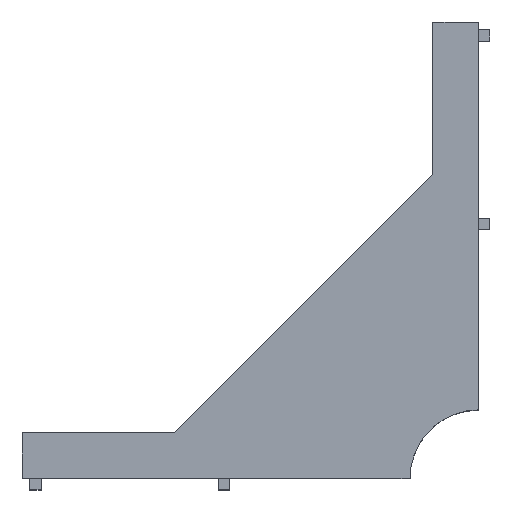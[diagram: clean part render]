
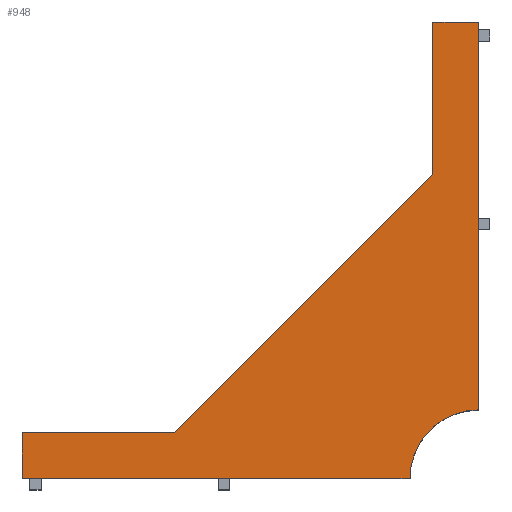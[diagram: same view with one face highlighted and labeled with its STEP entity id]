
A CAD part, top view. The second image highlights one B-rep face of the part: STEP entity #948.
In plain terms, the highlighted planar face has unit normal (0, 0, 1).
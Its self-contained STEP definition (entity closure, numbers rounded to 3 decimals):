
#25=PLANE('',#1023);
#81=LINE('',#1402,#195);
#82=LINE('',#1405,#196);
#83=LINE('',#1409,#197);
#84=LINE('',#1411,#198);
#85=LINE('',#1413,#199);
#86=LINE('',#1415,#200);
#87=LINE('',#1417,#201);
#195=VECTOR('',#1142,1000.);
#196=VECTOR('',#1143,1000.);
#197=VECTOR('',#1146,1000.);
#198=VECTOR('',#1147,1000.);
#199=VECTOR('',#1148,1000.);
#200=VECTOR('',#1149,1000.);
#201=VECTOR('',#1150,1000.);
#330=ORIENTED_EDGE('',*,*,#593,.T.);
#331=ORIENTED_EDGE('',*,*,#594,.F.);
#332=ORIENTED_EDGE('',*,*,#595,.T.);
#333=ORIENTED_EDGE('',*,*,#596,.F.);
#334=ORIENTED_EDGE('',*,*,#597,.F.);
#335=ORIENTED_EDGE('',*,*,#598,.T.);
#336=ORIENTED_EDGE('',*,*,#599,.T.);
#337=ORIENTED_EDGE('',*,*,#600,.T.);
#593=EDGE_CURVE('',#720,#721,#81,.T.);
#594=EDGE_CURVE('',#722,#721,#82,.T.);
#595=EDGE_CURVE('',#722,#723,#798,.T.);
#596=EDGE_CURVE('',#724,#723,#83,.T.);
#597=EDGE_CURVE('',#725,#724,#84,.T.);
#598=EDGE_CURVE('',#725,#726,#85,.T.);
#599=EDGE_CURVE('',#726,#727,#86,.T.);
#600=EDGE_CURVE('',#727,#720,#87,.T.);
#720=VERTEX_POINT('',#1403);
#721=VERTEX_POINT('',#1404);
#722=VERTEX_POINT('',#1406);
#723=VERTEX_POINT('',#1408);
#724=VERTEX_POINT('',#1410);
#725=VERTEX_POINT('',#1412);
#726=VERTEX_POINT('',#1414);
#727=VERTEX_POINT('',#1416);
#798=CIRCLE('',#1024,9.);
#818=EDGE_LOOP('',(#330,#331,#332,#333,#334,#335,#336,#337));
#878=FACE_BOUND('',#818,.T.);
#948=ADVANCED_FACE('',(#878),#25,.T.);
#1023=AXIS2_PLACEMENT_3D('',#1401,#1140,#1141);
#1024=AXIS2_PLACEMENT_3D('',#1407,#1144,#1145);
#1140=DIRECTION('',(0.,0.,1.));
#1141=DIRECTION('',(1.,0.,0.));
#1142=DIRECTION('',(0.,-1.,0.));
#1143=DIRECTION('',(-1.,0.,0.));
#1144=DIRECTION('',(0.,0.,-1.));
#1145=DIRECTION('',(-1.,0.,0.));
#1146=DIRECTION('',(0.,-1.,0.));
#1147=DIRECTION('',(1.,0.,0.));
#1148=DIRECTION('',(0.,-1.,0.));
#1149=DIRECTION('',(-0.707,-0.707,0.));
#1150=DIRECTION('',(-1.,0.,0.));
#1401=CARTESIAN_POINT('',(11.863,-11.339,27.));
#1402=CARTESIAN_POINT('',(-18.137,-11.339,27.));
#1403=CARTESIAN_POINT('',(-18.137,-8.339,27.));
#1404=CARTESIAN_POINT('',(-18.137,-14.339,27.));
#1405=CARTESIAN_POINT('',(-18.137,-14.339,27.));
#1406=CARTESIAN_POINT('',(32.863,-14.339,27.));
#1407=CARTESIAN_POINT('',(41.863,-14.339,27.));
#1408=CARTESIAN_POINT('',(41.863,-5.339,27.));
#1409=CARTESIAN_POINT('',(41.863,-14.339,27.));
#1410=CARTESIAN_POINT('',(41.863,45.661,27.));
#1411=CARTESIAN_POINT('',(35.863,45.661,27.));
#1412=CARTESIAN_POINT('',(35.863,45.661,27.));
#1413=CARTESIAN_POINT('',(35.863,-11.339,27.));
#1414=CARTESIAN_POINT('',(35.863,25.661,27.));
#1415=CARTESIAN_POINT('',(5.363,-4.839,27.));
#1416=CARTESIAN_POINT('',(1.863,-8.339,27.));
#1417=CARTESIAN_POINT('',(11.863,-8.339,27.));
